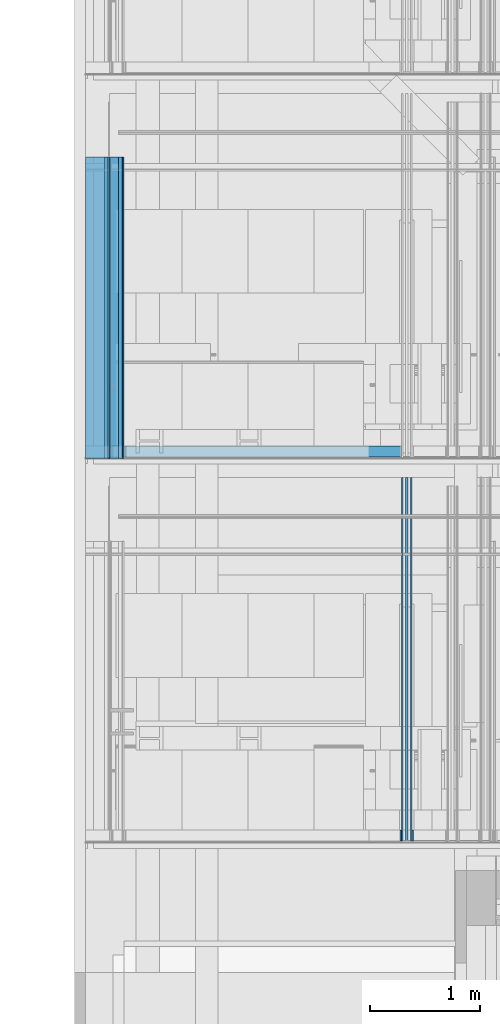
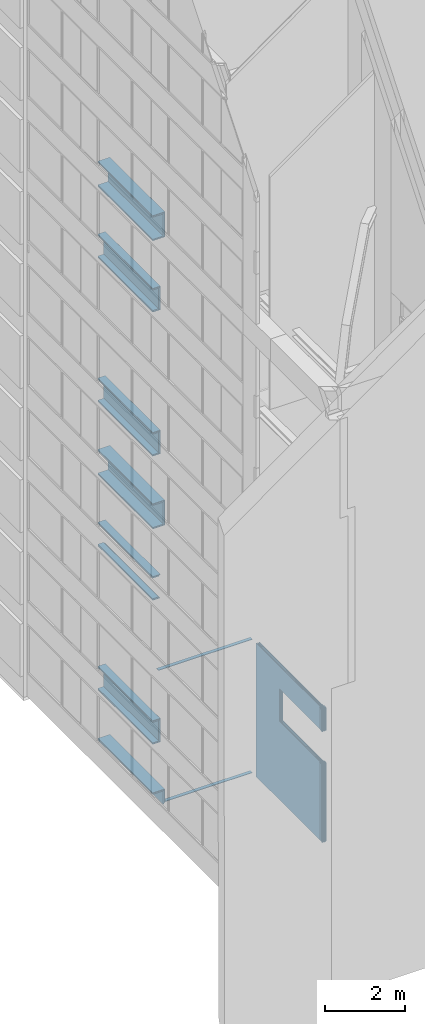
# One storey, part 58 of 583: 45 building element parts, 3 openings, 22 elements without a shape of their own.
"""IFC2X3 building model written with IfcOpenShell, lengths in metres."""

from ifc_helpers import new_model, entity, si_unit, converted_unit, derived_unit, money_unit, direction, frame, frame_2d, origin_with_axes, place, context, subcontext, project, spatial, polyline, rectangle, outline, extrude, material, type_object, element, aggregate, save


model = new_model("IFC2X3")

# Units and contexts
model_context = context("Model", 3, precision=1e-05, world=origin_with_axes(), true_north=direction((0.0, 1.0)))
body_context = subcontext(model_context, "Body", "Model", "MODEL_VIEW", scale=1.0)
ifc_project = project(units=[si_unit("LENGTHUNIT", "METRE"), si_unit("AREAUNIT", "SQUARE_METRE"), si_unit("VOLUMEUNIT", "CUBIC_METRE"), si_unit("ABSORBEDDOSEUNIT", "GRAY"), si_unit("AMOUNTOFSUBSTANCEUNIT", "MOLE"), si_unit("DOSEEQUIVALENTUNIT", "SIEVERT"), si_unit("ELECTRICCAPACITANCEUNIT", "FARAD"), si_unit("ELECTRICCHARGEUNIT", "COULOMB"), si_unit("ELECTRICCONDUCTANCEUNIT", "SIEMENS"), si_unit("ELECTRICCURRENTUNIT", "AMPERE"), si_unit("ELECTRICRESISTANCEUNIT", "OHM"), si_unit("ELECTRICVOLTAGEUNIT", "VOLT"), si_unit("ENERGYUNIT", "JOULE"), si_unit("FORCEUNIT", "NEWTON"), si_unit("FREQUENCYUNIT", "HERTZ"), si_unit("ILLUMINANCEUNIT", "LUX"), si_unit("INDUCTANCEUNIT", "HENRY"), si_unit("LUMINOUSFLUXUNIT", "LUMEN"), si_unit("LUMINOUSINTENSITYUNIT", "CANDELA"), si_unit("MAGNETICFLUXDENSITYUNIT", "TESLA"), si_unit("MAGNETICFLUXUNIT", "WEBER"), si_unit("MASSUNIT", "GRAM"), converted_unit("PLANEANGLEUNIT", "degree", entity("IfcReal", 0.0174532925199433), si_unit("PLANEANGLEUNIT", "RADIAN"), dimensions=[0, 0, 0, 0, 0, 0, 0]), si_unit("POWERUNIT", "WATT"), si_unit("PRESSUREUNIT", "PASCAL"), si_unit("RADIOACTIVITYUNIT", "BECQUEREL"), si_unit("SOLIDANGLEUNIT", "STERADIAN"), si_unit("THERMODYNAMICTEMPERATUREUNIT", "KELVIN"), si_unit("TIMEUNIT", "SECOND"), derived_unit("ACCELERATIONUNIT", [(si_unit("LENGTHUNIT", "METRE"), 1), (si_unit("TIMEUNIT", "SECOND"), -2)]), derived_unit("ANGULARVELOCITYUNIT", [(converted_unit("PLANEANGLEUNIT", "degree", entity("IfcReal", 0.0174532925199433), si_unit("PLANEANGLEUNIT", "RADIAN"), dimensions=[0, 0, 0, 0, 0, 0, 0]), 1), (si_unit("TIMEUNIT", "SECOND"), -1)]), derived_unit("CURVATUREUNIT", [(converted_unit("PLANEANGLEUNIT", "degree", entity("IfcReal", 0.0174532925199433), si_unit("PLANEANGLEUNIT", "RADIAN"), dimensions=[0, 0, 0, 0, 0, 0, 0]), 1), (si_unit("LENGTHUNIT", "METRE"), -1)]), derived_unit("DYNAMICVISCOSITYUNIT", [(si_unit("PRESSUREUNIT", "PASCAL"), 1), (si_unit("TIMEUNIT", "SECOND"), 1)]), derived_unit("HEATFLUXDENSITYUNIT", [(si_unit("POWERUNIT", "WATT"), 1), (si_unit("LENGTHUNIT", "METRE"), -2)]), derived_unit("HEATINGVALUEUNIT", [(si_unit("ENERGYUNIT", "JOULE"), 1), (si_unit("MASSUNIT", "GRAM"), -1)]), derived_unit("INTEGERCOUNTRATEUNIT", [(si_unit("TIMEUNIT", "SECOND"), -1)]), derived_unit("IONCONCENTRATIONUNIT", [(si_unit("MASSUNIT", "GRAM"), 1), (si_unit("VOLUMEUNIT", "CUBIC_METRE"), -1)]), derived_unit("ISOTHERMALMOISTURECAPACITYUNIT", [(si_unit("VOLUMEUNIT", "CUBIC_METRE"), 1), (si_unit("MASSUNIT", "GRAM"), -1)]), derived_unit("KINEMATICVISCOSITYUNIT", [(si_unit("AREAUNIT", "SQUARE_METRE"), 1), (si_unit("TIMEUNIT", "SECOND"), -1)]), derived_unit("LINEARFORCEUNIT", [(si_unit("FORCEUNIT", "NEWTON"), 1), (si_unit("LENGTHUNIT", "METRE"), -1)]), derived_unit("LINEARMOMENTUNIT", [(si_unit("FORCEUNIT", "NEWTON"), 1), (si_unit("LENGTHUNIT", "METRE"), -1)]), derived_unit("LINEARSTIFFNESSUNIT", [(si_unit("FORCEUNIT", "NEWTON"), 1), (si_unit("LENGTHUNIT", "METRE"), -1)]), derived_unit("LINEARVELOCITYUNIT", [(si_unit("LENGTHUNIT", "METRE"), 1), (si_unit("TIMEUNIT", "SECOND"), -1)]), derived_unit("LUMINOUSINTENSITYDISTRIBUTIONUNIT", [(si_unit("LUMINOUSINTENSITYUNIT", "CANDELA"), 1), (si_unit("LUMINOUSFLUXUNIT", "LUMEN"), -1)]), derived_unit("MASSDENSITYUNIT", [(si_unit("MASSUNIT", "GRAM"), 1), (si_unit("VOLUMEUNIT", "CUBIC_METRE"), -1)]), derived_unit("MASSFLOWRATEUNIT", [(si_unit("MASSUNIT", "GRAM"), 1), (si_unit("TIMEUNIT", "SECOND"), -1)]), derived_unit("MASSPERLENGTHUNIT", [(si_unit("MASSUNIT", "GRAM"), 1), (si_unit("LENGTHUNIT", "METRE"), -1)]), derived_unit("MODULUSOFELASTICITYUNIT", [(si_unit("FORCEUNIT", "NEWTON"), 1), (si_unit("AREAUNIT", "SQUARE_METRE"), -1)]), derived_unit("MODULUSOFLINEARSUBGRADEREACTIONUNIT", [(si_unit("FORCEUNIT", "NEWTON"), 1), (si_unit("LENGTHUNIT", "METRE"), -2)]), derived_unit("MODULUSOFROTATIONALSUBGRADEREACTIONUNIT", [(si_unit("FORCEUNIT", "NEWTON"), 1), (si_unit("LENGTHUNIT", "METRE"), 1)]), derived_unit("MODULUSOFSUBGRADEREACTIONUNIT", [(si_unit("FORCEUNIT", "NEWTON"), 1), (si_unit("VOLUMEUNIT", "CUBIC_METRE"), -1)]), derived_unit("MOISTUREDIFFUSIVITYUNIT", [(si_unit("VOLUMEUNIT", "CUBIC_METRE"), 1), (si_unit("TIMEUNIT", "SECOND"), -1)]), derived_unit("MOLECULARWEIGHTUNIT", [(si_unit("MASSUNIT", "GRAM"), 1), (si_unit("AMOUNTOFSUBSTANCEUNIT", "MOLE"), -1)]), derived_unit("PLANARFORCEUNIT", [(si_unit("FORCEUNIT", "NEWTON"), 1), (si_unit("LENGTHUNIT", "METRE"), -2)]), derived_unit("ROTATIONALFREQUENCYUNIT", [(si_unit("TIMEUNIT", "SECOND"), -1)]), derived_unit("ROTATIONALMASSUNIT", [(si_unit("MASSUNIT", "GRAM"), 1), (si_unit("LENGTHUNIT", "METRE"), 2)]), derived_unit("ROTATIONALSTIFFNESSUNIT", [(si_unit("FORCEUNIT", "NEWTON"), 1), (si_unit("LENGTHUNIT", "METRE"), 1), (converted_unit("PLANEANGLEUNIT", "degree", entity("IfcReal", 0.0174532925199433), si_unit("PLANEANGLEUNIT", "RADIAN"), dimensions=[0, 0, 0, 0, 0, 0, 0]), -1)]), derived_unit("SECTIONAREAINTEGRALUNIT", [(si_unit("LENGTHUNIT", "METRE"), 5)]), derived_unit("SECTIONMODULUSUNIT", [(si_unit("LENGTHUNIT", "METRE"), 3)]), derived_unit("SHEARMODULUSUNIT", [(si_unit("FORCEUNIT", "NEWTON"), 1), (si_unit("AREAUNIT", "SQUARE_METRE"), -1)]), derived_unit("SOUNDPOWERUNIT", [(si_unit("ENERGYUNIT", "JOULE"), 1), (si_unit("TIMEUNIT", "SECOND"), -1)]), derived_unit("SPECIFICHEATCAPACITYUNIT", [(si_unit("FORCEUNIT", "NEWTON"), 1), (si_unit("MASSUNIT", "GRAM"), -1), (si_unit("THERMODYNAMICTEMPERATUREUNIT", "KELVIN"), -1)]), derived_unit("TEMPERATUREGRADIENTUNIT", [(si_unit("THERMODYNAMICTEMPERATUREUNIT", "KELVIN"), 1), (si_unit("LENGTHUNIT", "METRE"), -1)]), derived_unit("THERMALADMITTANCEUNIT", [(si_unit("POWERUNIT", "WATT"), 1), (si_unit("AREAUNIT", "SQUARE_METRE"), -1), (si_unit("THERMODYNAMICTEMPERATUREUNIT", "KELVIN"), -1)]), derived_unit("THERMALCONDUCTANCEUNIT", [(si_unit("POWERUNIT", "WATT"), 1), (si_unit("LENGTHUNIT", "METRE"), -1), (si_unit("THERMODYNAMICTEMPERATUREUNIT", "KELVIN"), -1)]), derived_unit("THERMALEXPANSIONCOEFFICIENTUNIT", [(si_unit("THERMODYNAMICTEMPERATUREUNIT", "KELVIN"), -1)]), derived_unit("THERMALRESISTANCEUNIT", [(si_unit("AREAUNIT", "SQUARE_METRE"), 1), (si_unit("POWERUNIT", "WATT"), -1)]), derived_unit("THERMALTRANSMITTANCEUNIT", [(si_unit("POWERUNIT", "WATT"), 1), (si_unit("AREAUNIT", "SQUARE_METRE"), -1), (si_unit("THERMODYNAMICTEMPERATUREUNIT", "KELVIN"), -1)]), derived_unit("TORQUEUNIT", [(si_unit("FORCEUNIT", "NEWTON"), 1), (si_unit("LENGTHUNIT", "METRE"), 1)]), derived_unit("VAPORPERMEABILITYUNIT", [(si_unit("MASSUNIT", "GRAM"), 1), (si_unit("TIMEUNIT", "SECOND"), -1)]), derived_unit("VOLUMETRICFLOWRATEUNIT", [(si_unit("VOLUMEUNIT", "CUBIC_METRE"), 1), (si_unit("TIMEUNIT", "SECOND"), -1)]), derived_unit("WARPINGCONSTANTUNIT", [(si_unit("LENGTHUNIT", "METRE"), 6)]), derived_unit("WARPINGMOMENTUNIT", [(si_unit("FORCEUNIT", "NEWTON"), 1), (si_unit("LENGTHUNIT", "METRE"), 2)]), money_unit("GBP")], contexts=[model_context])

# Site, building, storey
site_placement = place(None, origin_with_axes())
site = spatial("IfcSite", under=ifc_project, at=site_placement, Name="Site", CompositionType="ELEMENT")
building_placement = place(site_placement, origin_with_axes())
building = spatial("IfcBuilding", under=site, at=building_placement, Name="Building01", CompositionType="ELEMENT")
storey_placement = place(building_placement, frame((0.0, 0.0, 20.78), z_axis=(0.0, 0.0, 1.0), x_axis=(1.0, 0.0, 0.0)))
storey = spatial("IfcBuildingStorey", under=building, at=storey_placement, Name="RL", CompositionType="ELEMENT", Elevation=20.78)

# Wall, openings, building element parts
wall_type_1 = type_object("IfcWallType", Name="SHE_A-Walls_Type05a_Partition_95mm_tall", PredefinedType="NOTDEFINED")
wall_1_placement = place(storey_placement, frame((3.030286, 5.15, -20.462), z_axis=(0.0, 1.0, 0.0), x_axis=(0.0, 0.0, 1.0)))
wall_1 = element("IfcWall", 1, at=wall_1_placement, inside=storey, type_object=wall_type_1, Name="5A", ObjectType="SHE_A-Walls_Type05a_Partition_95mm_tall")
opening_1_placement = place(wall_1_placement, frame((2.433, 0.229, -0.03), z_axis=(0.0, 0.0, 1.0), x_axis=(1.0, 0.0, 0.0)))
element("IfcOpeningElement", 2, at=opening_1_placement, cuts=wall_1, Name="Opening", ObjectType="Opening", context=body_context, shape_type="SweptSolid", body=[
    extrude(rectangle(XDim=0.942, YDim=2.142, at=frame_2d((-0.471, 1.071), x_axis=(1.0, 0.0))), frame((0.0, -0.381, 0.0), z_axis=(0.0, 1.0, 0.0), x_axis=(-1.0, 0.0, 0.0)), (0.0, 0.0, 1.0), 0.762),
])
opening_2_placement = place(wall_1_placement, frame((2.433, 0.069, -0.015), z_axis=(0.0, 0.0, 1.0), x_axis=(1.0, 0.0, 0.0)))
element("IfcOpeningElement", 3, at=opening_2_placement, cuts=wall_1, Name="Opening", ObjectType="Opening", context=body_context, shape_type="SweptSolid", body=[
    extrude(rectangle(XDim=0.9, YDim=2.142, at=frame_2d((0.45, 1.071), x_axis=(-1.0, 0.0))), frame((0.0, 0.141, 0.0), z_axis=(0.0, -1.0, 0.0), x_axis=(1.0, 0.0, 0.0)), (0.0, 0.0, 1.0), 0.282),
])
opening_3_placement = place(wall_1_placement, frame((2.391, -0.06, 0.0), z_axis=(0.0, 0.0, 1.0), x_axis=(1.0, 0.0, 0.0)))
element("IfcOpeningElement", 4, at=opening_3_placement, cuts=wall_1, Name="Opening", ObjectType="Opening", context=body_context, shape_type="SweptSolid", body=[
    extrude(rectangle(XDim=2.142, YDim=0.984, at=frame_2d((0.492, 1.071), x_axis=(0.0, -1.0))), frame((0.0, 5.718031, 0.0), z_axis=(0.0, -1.0, 0.0), x_axis=(1.0, 0.0, 0.0)), (0.0, 0.0, 1.0), 11.436062),
])
ifc_material_1 = material(Name="A_BSUK_Insulation")
placement_1 = place(wall_1_placement, origin_with_axes())
building_element_part_1 = element("IfcBuildingElementPart", 5, at=placement_1, material=ifc_material_1, Name="1", context=body_context, shape_type="SweptSolid", body=[
    extrude(rectangle(XDim=4.067, YDim=0.025, at=frame_2d((2.0335, -0.0125), x_axis=(-1.0, 0.0))), origin_with_axes(), (0.0, 0.0, 1.0), 3.32),
])
ifc_material_2 = material(Name="A_BSUK_Walls_Timber")
building_element_part_2 = element("IfcBuildingElementPart", 6, at=placement_1, material=ifc_material_2, Name="2", context=body_context, shape_type="SweptSolid", body=[
    extrude(rectangle(XDim=4.037, YDim=0.015, at=frame_2d((2.0335, -0.0675), x_axis=(-1.0, 0.0))), frame((0.0, 0.0, 0.015), z_axis=(0.0, 0.0, 1.0), x_axis=(1.0, 0.0, 0.0)), (0.0, 0.0, 1.0), 0.1),
])
building_element_part_3 = element("IfcBuildingElementPart", 7, at=placement_1, material=ifc_material_2, Name="3", context=body_context, shape_type="SweptSolid", body=[
    extrude(rectangle(XDim=4.052, YDim=0.015, at=frame_2d((2.041, 0.0425), x_axis=(-1.0, 0.0))), frame((0.0, 0.0, 0.015), z_axis=(0.0, 0.0, 1.0), x_axis=(1.0, 0.0, 0.0)), (0.0, 0.0, 1.0), 0.1),
])
ifc_material_3 = material(Name="A_BSUK_WallInternal_Finishes_Plasterboard")
building_element_part_4 = element("IfcBuildingElementPart", 8, at=placement_1, material=ifc_material_3, Name="4", context=body_context, shape_type="SweptSolid", body=[
    extrude(rectangle(XDim=4.067, YDim=0.012, at=frame_2d((2.0335, -0.054), x_axis=(-1.0, 0.0))), origin_with_axes(), (0.0, 0.0, 1.0), 3.32),
])
building_element_part_5 = element("IfcBuildingElementPart", 9, at=placement_1, material=ifc_material_3, Name="5", context=body_context, shape_type="SweptSolid", body=[
    extrude(rectangle(XDim=4.067, YDim=0.012, at=frame_2d((2.0335, 0.029), x_axis=(-1.0, 0.0))), origin_with_axes(), (0.0, 0.0, 1.0), 3.32),
])
aggregate(wall_1, [building_element_part_1, building_element_part_2, building_element_part_3, building_element_part_4, building_element_part_5])

# Wall, building element parts
wall_type_2 = type_object("IfcWallType", Name="SHE_A-Walls_Type06d_ExternalWallInsulation_48mm", PredefinedType="NOTDEFINED")
wall_2_placement = place(storey_placement, frame((0.4, 8.64, -20.51), z_axis=(0.0, 1.0, 0.0), x_axis=(0.0, 0.0, 1.0)))
wall_2 = element("IfcWall", 10, at=wall_2_placement, inside=storey, type_object=wall_type_2, Name="6D", ObjectType="SHE_A-Walls_Type06d_ExternalWallInsulation_48mm")
placement_2 = place(wall_2_placement, origin_with_axes())
building_element_part_6 = element("IfcBuildingElementPart", 11, at=placement_2, material=ifc_material_1, Name="1", context=body_context, shape_type="SweptSolid", body=[
    extrude(outline(polyline([(0.443, 0.036), (0.036, 0.036), (0.0, 0.0), (0.407, 0.0), (0.443, 0.036)])), origin_with_axes(), (0.0, 0.0, 1.0), 2.74),
])
building_element_part_7 = element("IfcBuildingElementPart", 12, at=placement_2, material=ifc_material_3, Name="3", context=body_context, shape_type="SweptSolid", body=[
    extrude(outline(polyline([(0.455, 0.048), (0.048, 0.048), (0.035, 0.035), (0.442, 0.035), (0.455, 0.048)])), origin_with_axes(), (0.0, 0.0, 1.0), 2.74),
])
aggregate(wall_2, [building_element_part_6, building_element_part_7])

wall_3_placement = place(storey_placement, frame((0.4, 8.64, -20.103), z_axis=(0.0, 1.0, 0.0), x_axis=(-1.0, 0.0, 0.0)))
wall_3 = element("IfcWall", 13, at=wall_3_placement, inside=storey, type_object=wall_type_2, Name="6D", ObjectType="SHE_A-Walls_Type06d_ExternalWallInsulation_48mm")
placement_3 = place(wall_3_placement, origin_with_axes())
building_element_part_8 = element("IfcBuildingElementPart", 14, at=placement_3, material=ifc_material_1, Name="1", context=body_context, shape_type="SweptSolid", body=[
    extrude(outline(polyline([(-0.036, 0.036), (0.0, 0.0), (0.3, 0.0), (0.3, 0.036), (-0.036, 0.036)])), origin_with_axes(), (0.0, 0.0, 1.0), 2.74),
])
building_element_part_9 = element("IfcBuildingElementPart", 15, at=placement_3, material=ifc_material_3, Name="3", context=body_context, shape_type="SweptSolid", body=[
    extrude(outline(polyline([(-0.048, 0.048), (-0.035, 0.035), (0.3, 0.035), (0.3, 0.048), (-0.048, 0.048)])), origin_with_axes(), (0.0, 0.0, 1.0), 2.74),
])
aggregate(wall_3, [building_element_part_8, building_element_part_9])

wall_4_placement = place(storey_placement, frame((0.1, 8.64, -18.537), z_axis=(0.0, 1.0, 0.0), x_axis=(1.0, 0.0, 0.0)))
wall_4 = element("IfcWall", 16, at=wall_4_placement, inside=storey, type_object=wall_type_2, Name="6D", ObjectType="SHE_A-Walls_Type06d_ExternalWallInsulation_48mm")
placement_4 = place(wall_4_placement, origin_with_axes())
building_element_part_10 = element("IfcBuildingElementPart", 17, at=placement_4, material=ifc_material_1, Name="1", context=body_context, shape_type="SweptSolid", body=[
    extrude(outline(polyline([(0.206, 0.036), (0.0, 0.036), (0.0, 0.0), (0.17, 0.0), (0.206, 0.036)])), origin_with_axes(), (0.0, 0.0, 1.0), 2.74),
])
building_element_part_11 = element("IfcBuildingElementPart", 18, at=placement_4, material=ifc_material_3, Name="3", context=body_context, shape_type="SweptSolid", body=[
    extrude(outline(polyline([(0.218, 0.048), (0.0, 0.048), (0.0, 0.035), (0.205, 0.035), (0.218, 0.048)])), origin_with_axes(), (0.0, 0.0, 1.0), 2.74),
])
aggregate(wall_4, [building_element_part_10, building_element_part_11])

wall_5_placement = place(storey_placement, frame((0.27, 8.64, -18.537), z_axis=(0.0, 1.0, 0.0), x_axis=(0.0, 0.0, 1.0)))
wall_5 = element("IfcWall", 19, at=wall_5_placement, inside=storey, type_object=wall_type_2, Name="6D", ObjectType="SHE_A-Walls_Type06d_ExternalWallInsulation_48mm")
placement_5 = place(wall_5_placement, origin_with_axes())
building_element_part_12 = element("IfcBuildingElementPart", 20, at=placement_5, material=ifc_material_1, Name="1", context=body_context, shape_type="SweptSolid", body=[
    extrude(outline(polyline([(0.66, 0.036), (-0.036, 0.036), (0.0, 0.0), (0.624, 0.0), (0.66, 0.036)])), origin_with_axes(), (0.0, 0.0, 1.0), 2.74),
])
building_element_part_13 = element("IfcBuildingElementPart", 21, at=placement_5, material=ifc_material_3, Name="3", context=body_context, shape_type="SweptSolid", body=[
    extrude(outline(polyline([(0.672, 0.048), (-0.048, 0.048), (-0.035, 0.035), (0.659, 0.035), (0.672, 0.048)])), origin_with_axes(), (0.0, 0.0, 1.0), 2.74),
])
aggregate(wall_5, [building_element_part_12, building_element_part_13])

wall_6_placement = place(storey_placement, frame((0.27, 8.64, -17.913), z_axis=(0.0, 1.0, 0.0), x_axis=(-1.0, 0.0, 0.0)))
wall_6 = element("IfcWall", 22, at=wall_6_placement, inside=storey, type_object=wall_type_2, Name="6D", ObjectType="SHE_A-Walls_Type06d_ExternalWallInsulation_48mm")
placement_6 = place(wall_6_placement, origin_with_axes())
building_element_part_14 = element("IfcBuildingElementPart", 23, at=placement_6, material=ifc_material_1, Name="1", context=body_context, shape_type="SweptSolid", body=[
    extrude(outline(polyline([(-0.036, 0.036), (0.0, 0.0), (0.17, 0.0), (0.17, 0.036), (-0.036, 0.036)])), origin_with_axes(), (0.0, 0.0, 1.0), 2.74),
])
building_element_part_15 = element("IfcBuildingElementPart", 24, at=placement_6, material=ifc_material_3, Name="3", context=body_context, shape_type="SweptSolid", body=[
    extrude(outline(polyline([(-0.048, 0.048), (-0.035, 0.035), (0.17, 0.035), (0.17, 0.048), (-0.048, 0.048)])), origin_with_axes(), (0.0, 0.0, 1.0), 2.74),
])
aggregate(wall_6, [building_element_part_14, building_element_part_15])

wall_7_placement = place(storey_placement, frame((0.1, 8.64, -14.157), z_axis=(0.0, 1.0, 0.0), x_axis=(1.0, 0.0, 0.0)))
wall_7 = element("IfcWall", 25, at=wall_7_placement, inside=storey, type_object=wall_type_2, Name="6D", ObjectType="SHE_A-Walls_Type06d_ExternalWallInsulation_48mm")
placement_7 = place(wall_7_placement, origin_with_axes())
building_element_part_16 = element("IfcBuildingElementPart", 26, at=placement_7, material=ifc_material_1, Name="1", context=body_context, shape_type="SweptSolid", body=[
    extrude(outline(polyline([(0.206, 0.036), (0.0, 0.036), (0.0, 0.0), (0.17, 0.0), (0.206, 0.036)])), origin_with_axes(), (0.0, 0.0, 1.0), 2.74),
])
building_element_part_17 = element("IfcBuildingElementPart", 27, at=placement_7, material=ifc_material_3, Name="3", context=body_context, shape_type="SweptSolid", body=[
    extrude(outline(polyline([(0.218, 0.048), (0.0, 0.048), (0.0, 0.035), (0.205, 0.035), (0.218, 0.048)])), origin_with_axes(), (0.0, 0.0, 1.0), 2.74),
])
aggregate(wall_7, [building_element_part_16, building_element_part_17])

wall_8_placement = place(storey_placement, frame((0.27, 8.64, -13.533), z_axis=(0.0, 1.0, 0.0), x_axis=(-1.0, 0.0, 0.0)))
wall_8 = element("IfcWall", 28, at=wall_8_placement, inside=storey, type_object=wall_type_2, Name="6D", ObjectType="SHE_A-Walls_Type06d_ExternalWallInsulation_48mm")
placement_8 = place(wall_8_placement, origin_with_axes())
building_element_part_18 = element("IfcBuildingElementPart", 29, at=placement_8, material=ifc_material_1, Name="1", context=body_context, shape_type="SweptSolid", body=[
    extrude(outline(polyline([(-0.036, 0.036), (0.0, 0.0), (0.17, 0.0), (0.17, 0.036), (-0.036, 0.036)])), origin_with_axes(), (0.0, 0.0, 1.0), 2.74),
])
building_element_part_19 = element("IfcBuildingElementPart", 30, at=placement_8, material=ifc_material_3, Name="3", context=body_context, shape_type="SweptSolid", body=[
    extrude(outline(polyline([(-0.048, 0.048), (-0.035, 0.035), (0.17, 0.035), (0.17, 0.048), (-0.048, 0.048)])), origin_with_axes(), (0.0, 0.0, 1.0), 2.74),
])
aggregate(wall_8, [building_element_part_18, building_element_part_19])

wall_9_placement = place(storey_placement, frame((0.1, 8.64, -11.99), z_axis=(0.0, 1.0, 0.0), x_axis=(1.0, 0.0, 0.0)))
wall_9 = element("IfcWall", 31, at=wall_9_placement, inside=storey, type_object=wall_type_2, Name="6D", ObjectType="SHE_A-Walls_Type06d_ExternalWallInsulation_48mm")
placement_9 = place(wall_9_placement, origin_with_axes())
building_element_part_20 = element("IfcBuildingElementPart", 32, at=placement_9, material=ifc_material_1, Name="1", context=body_context, shape_type="SweptSolid", body=[
    extrude(outline(polyline([(0.336, 0.036), (0.0, 0.036), (0.0, 0.0), (0.3, 0.0), (0.336, 0.036)])), origin_with_axes(), (0.0, 0.0, 1.0), 2.74),
])
building_element_part_21 = element("IfcBuildingElementPart", 33, at=placement_9, material=ifc_material_3, Name="3", context=body_context, shape_type="SweptSolid", body=[
    extrude(outline(polyline([(0.348, 0.048), (0.0, 0.048), (0.0, 0.035), (0.335, 0.035), (0.348, 0.048)])), origin_with_axes(), (0.0, 0.0, 1.0), 2.74),
])
aggregate(wall_9, [building_element_part_20, building_element_part_21])

wall_10_placement = place(storey_placement, frame((0.4, 8.64, -11.99), z_axis=(0.0, 1.0, 0.0), x_axis=(0.0, 0.0, 1.0)))
wall_10 = element("IfcWall", 34, at=wall_10_placement, inside=storey, type_object=wall_type_2, Name="6D", ObjectType="SHE_A-Walls_Type06d_ExternalWallInsulation_48mm")
placement_10 = place(wall_10_placement, origin_with_axes())
building_element_part_22 = element("IfcBuildingElementPart", 35, at=placement_10, material=ifc_material_1, Name="1", context=body_context, shape_type="SweptSolid", body=[
    extrude(outline(polyline([(0.706, 0.036), (-0.036, 0.036), (0.0, 0.0), (0.67, 0.0), (0.706, 0.036)])), origin_with_axes(), (0.0, 0.0, 1.0), 2.74),
])
building_element_part_23 = element("IfcBuildingElementPart", 36, at=placement_10, material=ifc_material_3, Name="3", context=body_context, shape_type="SweptSolid", body=[
    extrude(outline(polyline([(0.718, 0.048), (-0.048, 0.048), (-0.035, 0.035), (0.705, 0.035), (0.718, 0.048)])), origin_with_axes(), (0.0, 0.0, 1.0), 2.74),
])
aggregate(wall_10, [building_element_part_22, building_element_part_23])

wall_11_placement = place(storey_placement, frame((0.4, 8.64, -11.32), z_axis=(0.0, 1.0, 0.0), x_axis=(-1.0, 0.0, 0.0)))
wall_11 = element("IfcWall", 37, at=wall_11_placement, inside=storey, type_object=wall_type_2, Name="6D", ObjectType="SHE_A-Walls_Type06d_ExternalWallInsulation_48mm")
placement_11 = place(wall_11_placement, origin_with_axes())
building_element_part_24 = element("IfcBuildingElementPart", 38, at=placement_11, material=ifc_material_1, Name="1", context=body_context, shape_type="SweptSolid", body=[
    extrude(outline(polyline([(-0.036, 0.036), (0.0, 0.0), (0.3, 0.0), (0.3, 0.036), (-0.036, 0.036)])), origin_with_axes(), (0.0, 0.0, 1.0), 2.74),
])
building_element_part_25 = element("IfcBuildingElementPart", 39, at=placement_11, material=ifc_material_3, Name="3", context=body_context, shape_type="SweptSolid", body=[
    extrude(outline(polyline([(-0.048, 0.048), (-0.035, 0.035), (0.3, 0.035), (0.3, 0.048), (-0.048, 0.048)])), origin_with_axes(), (0.0, 0.0, 1.0), 2.74),
])
aggregate(wall_11, [building_element_part_24, building_element_part_25])

wall_12_placement = place(storey_placement, frame((0.1, 8.64, -9.777), z_axis=(0.0, 1.0, 0.0), x_axis=(1.0, 0.0, 0.0)))
wall_12 = element("IfcWall", 40, at=wall_12_placement, inside=storey, type_object=wall_type_2, Name="6D", ObjectType="SHE_A-Walls_Type06d_ExternalWallInsulation_48mm")
placement_12 = place(wall_12_placement, origin_with_axes())
building_element_part_26 = element("IfcBuildingElementPart", 41, at=placement_12, material=ifc_material_1, Name="1", context=body_context, shape_type="SweptSolid", body=[
    extrude(outline(polyline([(0.206, 0.036), (0.0, 0.036), (0.0, 0.0), (0.17, 0.0), (0.206, 0.036)])), origin_with_axes(), (0.0, 0.0, 1.0), 2.74),
])
building_element_part_27 = element("IfcBuildingElementPart", 42, at=placement_12, material=ifc_material_3, Name="3", context=body_context, shape_type="SweptSolid", body=[
    extrude(outline(polyline([(0.218, 0.048), (0.0, 0.048), (0.0, 0.035), (0.205, 0.035), (0.218, 0.048)])), origin_with_axes(), (0.0, 0.0, 1.0), 2.74),
])
aggregate(wall_12, [building_element_part_26, building_element_part_27])

wall_13_placement = place(storey_placement, frame((0.27, 8.64, -9.777), z_axis=(0.0, 1.0, 0.0), x_axis=(0.0, 0.0, 1.0)))
wall_13 = element("IfcWall", 43, at=wall_13_placement, inside=storey, type_object=wall_type_2, Name="6D", ObjectType="SHE_A-Walls_Type06d_ExternalWallInsulation_48mm")
placement_13 = place(wall_13_placement, origin_with_axes())
building_element_part_28 = element("IfcBuildingElementPart", 44, at=placement_13, material=ifc_material_1, Name="1", context=body_context, shape_type="SweptSolid", body=[
    extrude(outline(polyline([(0.66, 0.036), (-0.036, 0.036), (0.0, 0.0), (0.624, 0.0), (0.66, 0.036)])), origin_with_axes(), (0.0, 0.0, 1.0), 2.74),
])
building_element_part_29 = element("IfcBuildingElementPart", 45, at=placement_13, material=ifc_material_3, Name="3", context=body_context, shape_type="SweptSolid", body=[
    extrude(outline(polyline([(0.672, 0.048), (-0.048, 0.048), (-0.035, 0.035), (0.659, 0.035), (0.672, 0.048)])), origin_with_axes(), (0.0, 0.0, 1.0), 2.74),
])
aggregate(wall_13, [building_element_part_28, building_element_part_29])

wall_14_placement = place(storey_placement, frame((0.27, 8.64, -9.153), z_axis=(0.0, 1.0, 0.0), x_axis=(-1.0, 0.0, 0.0)))
wall_14 = element("IfcWall", 46, at=wall_14_placement, inside=storey, type_object=wall_type_2, Name="6D", ObjectType="SHE_A-Walls_Type06d_ExternalWallInsulation_48mm")
placement_14 = place(wall_14_placement, origin_with_axes())
building_element_part_30 = element("IfcBuildingElementPart", 47, at=placement_14, material=ifc_material_1, Name="1", context=body_context, shape_type="SweptSolid", body=[
    extrude(outline(polyline([(-0.036, 0.036), (0.0, 0.0), (0.17, 0.0), (0.17, 0.036), (-0.036, 0.036)])), origin_with_axes(), (0.0, 0.0, 1.0), 2.74),
])
building_element_part_31 = element("IfcBuildingElementPart", 48, at=placement_14, material=ifc_material_3, Name="3", context=body_context, shape_type="SweptSolid", body=[
    extrude(outline(polyline([(-0.048, 0.048), (-0.035, 0.035), (0.17, 0.035), (0.17, 0.048), (-0.048, 0.048)])), origin_with_axes(), (0.0, 0.0, 1.0), 2.74),
])
aggregate(wall_14, [building_element_part_30, building_element_part_31])

wall_15_placement = place(storey_placement, frame((0.1, 8.64, -5.397), z_axis=(0.0, 1.0, 0.0), x_axis=(1.0, 0.0, 0.0)))
wall_15 = element("IfcWall", 49, at=wall_15_placement, inside=storey, type_object=wall_type_2, Name="6D", ObjectType="SHE_A-Walls_Type06d_ExternalWallInsulation_48mm")
placement_15 = place(wall_15_placement, origin_with_axes())
building_element_part_32 = element("IfcBuildingElementPart", 50, at=placement_15, material=ifc_material_1, Name="1", context=body_context, shape_type="SweptSolid", body=[
    extrude(outline(polyline([(0.206, 0.036), (0.0, 0.036), (0.0, 0.0), (0.17, 0.0), (0.206, 0.036)])), origin_with_axes(), (0.0, 0.0, 1.0), 2.74),
])
building_element_part_33 = element("IfcBuildingElementPart", 51, at=placement_15, material=ifc_material_3, Name="3", context=body_context, shape_type="SweptSolid", body=[
    extrude(outline(polyline([(0.218, 0.048), (0.0, 0.048), (0.0, 0.035), (0.205, 0.035), (0.218, 0.048)])), origin_with_axes(), (0.0, 0.0, 1.0), 2.74),
])
aggregate(wall_15, [building_element_part_32, building_element_part_33])

wall_16_placement = place(storey_placement, frame((0.27, 8.64, -5.397), z_axis=(0.0, 1.0, 0.0), x_axis=(0.0, 0.0, 1.0)))
wall_16 = element("IfcWall", 52, at=wall_16_placement, inside=storey, type_object=wall_type_2, Name="6D", ObjectType="SHE_A-Walls_Type06d_ExternalWallInsulation_48mm")
placement_16 = place(wall_16_placement, origin_with_axes())
building_element_part_34 = element("IfcBuildingElementPart", 53, at=placement_16, material=ifc_material_1, Name="1", context=body_context, shape_type="SweptSolid", body=[
    extrude(outline(polyline([(0.66, 0.036), (-0.036, 0.036), (0.0, 0.0), (0.624, 0.0), (0.66, 0.036)])), origin_with_axes(), (0.0, 0.0, 1.0), 2.74),
])
building_element_part_35 = element("IfcBuildingElementPart", 54, at=placement_16, material=ifc_material_3, Name="3", context=body_context, shape_type="SweptSolid", body=[
    extrude(outline(polyline([(0.672, 0.048), (-0.048, 0.048), (-0.035, 0.035), (0.659, 0.035), (0.672, 0.048)])), origin_with_axes(), (0.0, 0.0, 1.0), 2.74),
])
aggregate(wall_16, [building_element_part_34, building_element_part_35])

wall_17_placement = place(storey_placement, frame((0.27, 8.64, -4.773), z_axis=(0.0, 1.0, 0.0), x_axis=(-1.0, 0.0, 0.0)))
wall_17 = element("IfcWall", 55, at=wall_17_placement, inside=storey, type_object=wall_type_2, Name="6D", ObjectType="SHE_A-Walls_Type06d_ExternalWallInsulation_48mm")
placement_17 = place(wall_17_placement, origin_with_axes())
building_element_part_36 = element("IfcBuildingElementPart", 56, at=placement_17, material=ifc_material_1, Name="1", context=body_context, shape_type="SweptSolid", body=[
    extrude(outline(polyline([(-0.036, 0.036), (0.0, 0.0), (0.17, 0.0), (0.17, 0.036), (-0.036, 0.036)])), origin_with_axes(), (0.0, 0.0, 1.0), 2.74),
])
building_element_part_37 = element("IfcBuildingElementPart", 57, at=placement_17, material=ifc_material_3, Name="3", context=body_context, shape_type="SweptSolid", body=[
    extrude(outline(polyline([(-0.048, 0.048), (-0.035, 0.035), (0.17, 0.035), (0.17, 0.048), (-0.048, 0.048)])), origin_with_axes(), (0.0, 0.0, 1.0), 2.74),
])
aggregate(wall_17, [building_element_part_36, building_element_part_37])

wall_18_placement = place(storey_placement, frame((0.1, 8.64, -3.23), z_axis=(0.0, 1.0, 0.0), x_axis=(1.0, 0.0, 0.0)))
wall_18 = element("IfcWall", 58, at=wall_18_placement, inside=storey, type_object=wall_type_2, Name="6D", ObjectType="SHE_A-Walls_Type06d_ExternalWallInsulation_48mm")
placement_18 = place(wall_18_placement, origin_with_axes())
building_element_part_38 = element("IfcBuildingElementPart", 59, at=placement_18, material=ifc_material_1, Name="1", context=body_context, shape_type="SweptSolid", body=[
    extrude(outline(polyline([(0.336, 0.036), (0.0, 0.036), (0.0, 0.0), (0.3, 0.0), (0.336, 0.036)])), origin_with_axes(), (0.0, 0.0, 1.0), 2.74),
])
building_element_part_39 = element("IfcBuildingElementPart", 60, at=placement_18, material=ifc_material_3, Name="3", context=body_context, shape_type="SweptSolid", body=[
    extrude(outline(polyline([(0.348, 0.048), (0.0, 0.048), (0.0, 0.035), (0.335, 0.035), (0.348, 0.048)])), origin_with_axes(), (0.0, 0.0, 1.0), 2.74),
])
aggregate(wall_18, [building_element_part_38, building_element_part_39])

wall_19_placement = place(storey_placement, frame((0.4, 8.64, -3.23), z_axis=(0.0, 1.0, 0.0), x_axis=(0.0, 0.0, 1.0)))
wall_19 = element("IfcWall", 61, at=wall_19_placement, inside=storey, type_object=wall_type_2, Name="6D", ObjectType="SHE_A-Walls_Type06d_ExternalWallInsulation_48mm")
placement_19 = place(wall_19_placement, origin_with_axes())
building_element_part_40 = element("IfcBuildingElementPart", 62, at=placement_19, material=ifc_material_1, Name="1", context=body_context, shape_type="SweptSolid", body=[
    extrude(outline(polyline([(0.706, 0.036), (-0.036, 0.036), (0.0, 0.0), (0.67, 0.0), (0.706, 0.036)])), origin_with_axes(), (0.0, 0.0, 1.0), 2.74),
])
building_element_part_41 = element("IfcBuildingElementPart", 63, at=placement_19, material=ifc_material_3, Name="3", context=body_context, shape_type="SweptSolid", body=[
    extrude(outline(polyline([(0.718, 0.048), (-0.048, 0.048), (-0.035, 0.035), (0.705, 0.035), (0.718, 0.048)])), origin_with_axes(), (0.0, 0.0, 1.0), 2.74),
])
aggregate(wall_19, [building_element_part_40, building_element_part_41])

wall_20_placement = place(storey_placement, frame((0.4, 8.64, -2.56), z_axis=(0.0, 1.0, 0.0), x_axis=(-1.0, 0.0, 0.0)))
wall_20 = element("IfcWall", 64, at=wall_20_placement, inside=storey, type_object=wall_type_2, Name="6D", ObjectType="SHE_A-Walls_Type06d_ExternalWallInsulation_48mm")
placement_20 = place(wall_20_placement, origin_with_axes())
building_element_part_42 = element("IfcBuildingElementPart", 65, at=placement_20, material=ifc_material_1, Name="1", context=body_context, shape_type="SweptSolid", body=[
    extrude(outline(polyline([(-0.036, 0.036), (0.0, 0.0), (0.3, 0.0), (0.3, 0.036), (-0.036, 0.036)])), origin_with_axes(), (0.0, 0.0, 1.0), 2.74),
])
building_element_part_43 = element("IfcBuildingElementPart", 66, at=placement_20, material=ifc_material_3, Name="3", context=body_context, shape_type="SweptSolid", body=[
    extrude(outline(polyline([(-0.048, 0.048), (-0.035, 0.035), (0.3, 0.035), (0.3, 0.048), (-0.048, 0.048)])), origin_with_axes(), (0.0, 0.0, 1.0), 2.74),
])
aggregate(wall_20, [building_element_part_42, building_element_part_43])

# Wall, building element part
wall_21_placement = place(storey_placement, frame((3.77418, 8.64, -20.51), z_axis=(0.0, 1.0, 0.0), x_axis=(-1.0, 0.0, 0.0)))
wall_21 = element("IfcWall", 67, at=wall_21_placement, inside=storey, type_object=wall_type_2, Name="6D", ObjectType="SHE_A-Walls_Type06d_ExternalWallInsulation_48mm")
building_element_part_44_placement = place(wall_21_placement, origin_with_axes())
building_element_part_44 = element("IfcBuildingElementPart", 68, at=building_element_part_44_placement, material=ifc_material_2, Name="3", context=body_context, shape_type="SweptSolid", body=[
    extrude(outline(polyline([(3.31118, 0.063), (0.803894, 0.063), (0.803894, 0.048), (3.32618, 0.048), (3.31118, 0.063)])), frame((0.0, 0.0, 0.015), z_axis=(0.0, 0.0, 1.0), x_axis=(1.0, 0.0, 0.0)), (0.0, 0.0, 1.0), 0.1),
])
aggregate(wall_21, [building_element_part_44])

wall_type_3 = type_object("IfcWallType", Name="SHE_A-Walls_Type01c_Partywall_225mm_twin_tall", PredefinedType="NOTDEFINED")
wall_22_placement = place(storey_placement, frame((0.318, 8.64, -16.258), z_axis=(0.0, 1.0, 0.0), x_axis=(1.0, 0.0, 0.0)))
wall_22 = element("IfcWall", 69, at=wall_22_placement, inside=storey, type_object=wall_type_3, Name="1C", ObjectType="SHE_A-Walls_Type01c_Partywall_225mm_twin_tall")
building_element_part_45_placement = place(wall_22_placement, origin_with_axes())
building_element_part_45 = element("IfcBuildingElementPart", 70, at=building_element_part_45_placement, material=ifc_material_2, Name="2", context=body_context, shape_type="SweptSolid", body=[
    extrude(rectangle(XDim=2.700286, YDim=0.015, at=frame_2d((1.302143, 0.1445), x_axis=(-1.0, 0.0))), frame((0.0, 0.0, 0.015), z_axis=(0.0, 0.0, 1.0), x_axis=(1.0, 0.0, 0.0)), (0.0, 0.0, 1.0), 0.1),
])
aggregate(wall_22, [building_element_part_45])

save(model, "model.ifc")
